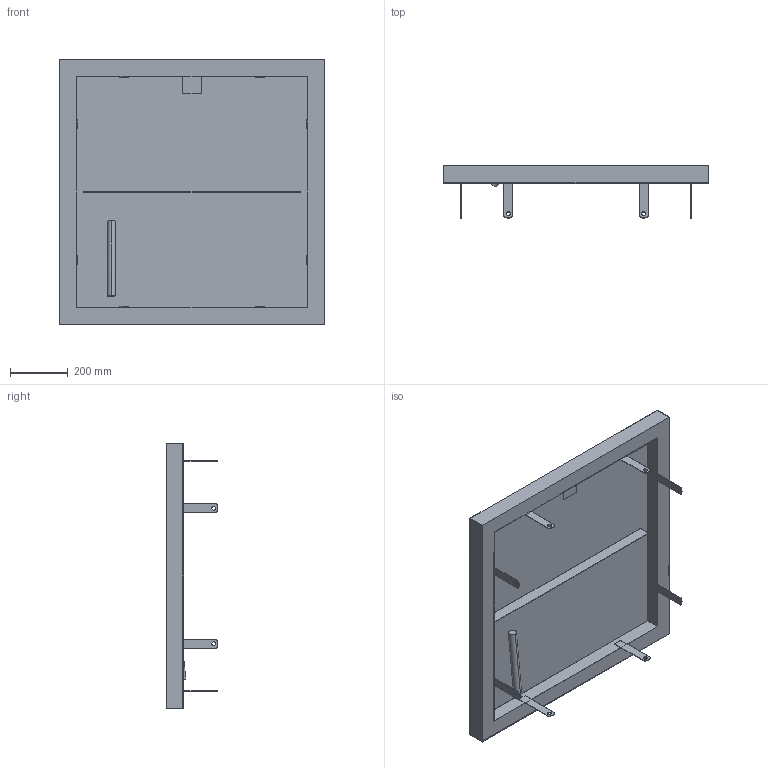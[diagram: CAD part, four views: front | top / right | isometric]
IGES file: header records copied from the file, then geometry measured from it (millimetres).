
Start section:  PTC IGES file: 51630909.igs
Global section: file name: 51630909.igs; native system: Creo Parametric by PTC Inc.; preprocessor: 2019224; author: gm; organization: Unknown; date: 20210519.162054; units: millimetre
Bounding box: 920 x 180 x 920 mm (x, y, z)
Surface area: 3142312.8 mm2 (no closed solid volume)
Topology: 0 solids, 0 shells, 120 faces, 608 edges, 608 vertices
Faces by surface type: bspline 89, revolution 31
